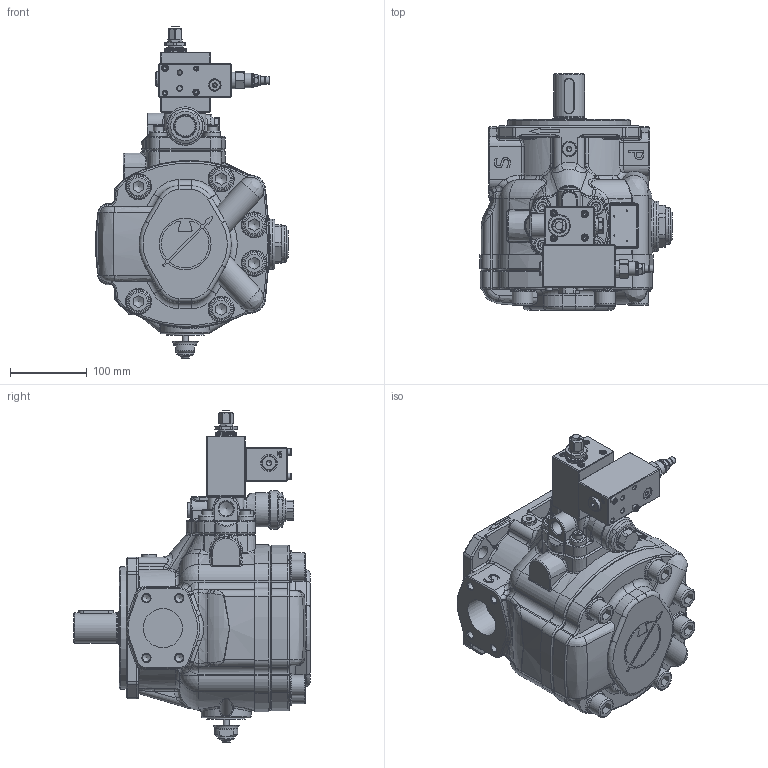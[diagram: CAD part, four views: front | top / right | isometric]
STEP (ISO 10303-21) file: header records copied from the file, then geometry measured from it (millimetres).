
FILE_DESCRIPTION(/* description */ (''),/* implementation_level */ '2;1');
FILE_NAME(/* name */ 'C:\Users\marcop\Desktop\01 PHPK 3 FHRM PCS003.stp',/* time_stamp */ '2019-11-21T10:47:39+01:00',/* author */ ('marcop'),/* organization */ (''),/* preprocessor_version */ 'ST-DEVELOPER v17',/* originating_system */ 'Autodesk Inventor 2018',/* authorisation */ '');
FILE_SCHEMA (('AUTOMOTIVE_DESIGN { 1 0 10303 214 3 1 1 }'));
Products named in the file (1): PLP-PHP 3_Shrinkwrap_1
Bounding box: 251.18 x 308 x 433.1 mm (x, y, z)
Volume: 7285622.7 mm3; surface area: 584326.7 mm2
Topology: 2 solids, 2 shells, 2444 faces, 6236 edges, 3862 vertices
Faces by surface type: plane 873, cylinder 560, bspline 459, cone 272, torus 236, sphere 44
Full cylindrical faces by diameter (mm): 0.9 x3, 1.7 x4, 3 x2, 3.15 x1, 4 x1, 4.134 x2, 5.5 x2, 6 x2, 6.5 x3, 7.2 x1, 7.671 x2, 8 x1, 8.376 x4, 8.5 x6, 8.566 x2, 9.347 x2, 9.5 x5, 10.106 x4, 11.445 x1, 12 x5, 13 x4, 13.487 x1, 13.5 x1, 13.767 x2, 14 x3, 14.224 x1, 14.63 x1, 15.5 x1, 16 x2, 17.374 x1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
Entity records: 91080 total; most frequent: CARTESIAN_POINT 32376, ORIENTED_EDGE 12298, DIRECTION 11151, EDGE_CURVE 6149, AXIS2_PLACEMENT_3D 4351, VERTEX_POINT 3862, EDGE_LOOP 2613, LINE 2449
